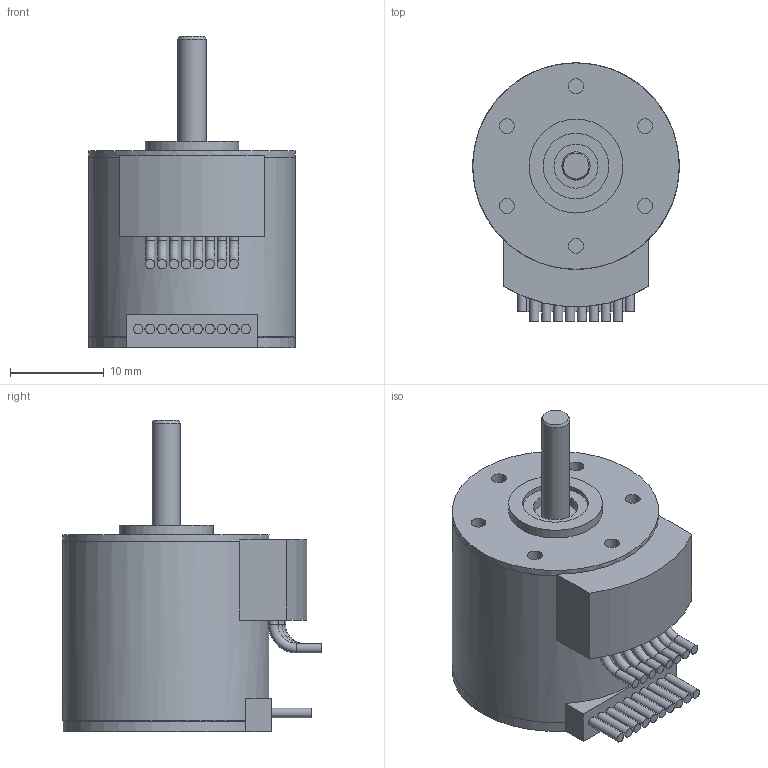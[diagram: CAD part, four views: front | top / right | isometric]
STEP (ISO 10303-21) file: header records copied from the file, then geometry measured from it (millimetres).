
FILE_DESCRIPTION(/* description */ (''),/* implementation_level */ '2;1');
FILE_NAME(/* name */ '2214.BXT_IEF3_L.stp',/* time_stamp */ '2019-09-17T16:13:07+02:00',/* author */ ('DR. FRITZ FAULHABER GmbH & Co. KG'),/* organization */ ('DR. FRITZ FAULHABER GmbH & Co. KG'),/* preprocessor_version */ 'ST-DEVELOPER v16.7',/* originating_system */ 'SIEMENS PLM Software NX 12.0',/* authorisation */ '');
FILE_SCHEMA (('AUTOMOTIVE_DESIGN { 1 0 10303 214 3 1 1 1 }'));
Length unit declared in the file: millimetre
Products named in the file (1): H00002276-A-2214.0H007
Bounding box: 22 x 27.5 x 33.2 mm (x, y, z)
Volume: 8776 mm3; surface area: 3024.2 mm2
Topology: 1 solids, 1 shells, 112 faces, 251 edges, 160 vertices
Faces by surface type: plane 53, cylinder 50, torus 8, cone 1
Full cylindrical faces by diameter (mm): 1 x16, 1.6 x6, 3 x1, 4.7 x1, 7 x1, 10 x1, 22 x2
Entity records: 2944 total; most frequent: DIRECTION 542, CARTESIAN_POINT 483, ORIENTED_EDGE 424, AXIS2_PLACEMENT_3D 217, EDGE_CURVE 212, EDGE_LOOP 168, VERTEX_POINT 158, ADVANCED_FACE 112
